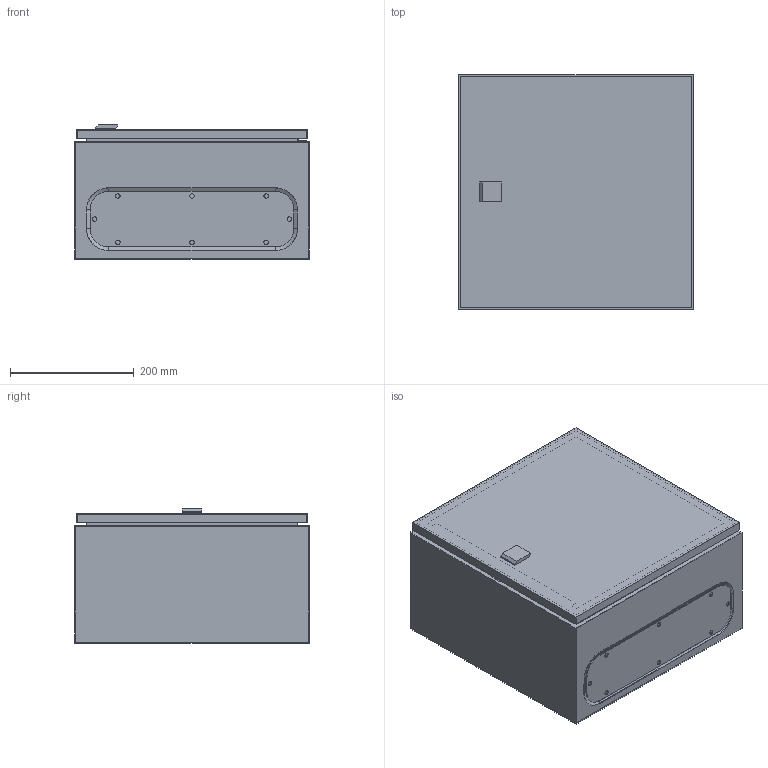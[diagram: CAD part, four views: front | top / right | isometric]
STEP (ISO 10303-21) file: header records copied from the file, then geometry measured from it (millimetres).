
FILE_DESCRIPTION(/* description */ (''),/* implementation_level */ '2;1');
FILE_NAME(/* name */ '3DCAD_Schaltschrank_LSC_fuer_CMS.stp',/* time_stamp */ '2019-10-11T09:41:37+02:00',/* author */ ('CC2'),/* organization */ ('Leuze electronic'),/* preprocessor_version */ 'ST-DEVELOPER v16',/* originating_system */ 'SIEMENS PLM Software NX 11.0',/* authorisation */ '');
FILE_SCHEMA (('AUTOMOTIVE_DESIGN { 1 0 10303 214 3 1 1 1 }'));
Length unit declared in the file: millimetre
Products named in the file (7): 026144_A_1-model-plain-1-mm-template; 026142_A_1-model-plain-1-mm-template; 026141_A_1-model-plain-1-mm-template; 026140_A_1-model-plain-1-mm-template; 026145_A_1-model-plain-1-mm-template; 026146_A_1-model-plain-1-mm-template; 19-103043_00_1-3DCAD_Schaltschrank_LSC_fuer_CMS
Assembly tree (7 placements, depth 2):
  19-103043_00_1-3DCAD_Schaltschrank_LSC_fuer_CMS
    026146_A_1-model-plain-1-mm-template
    026145_A_1-model-plain-1-mm-template  x2
    026140_A_1-model-plain-1-mm-template
    026141_A_1-model-plain-1-mm-template
    026142_A_1-model-plain-1-mm-template
    026144_A_1-model-plain-1-mm-template
Bounding box: 380 x 380 x 217 mm (x, y, z)
Volume: 1300595.5 mm3; surface area: 1596265.1 mm2
Topology: 7 solids, 7 shells, 380 faces, 1037 edges, 682 vertices
Faces by surface type: plane 283, cylinder 77, cone 20
Full cylindrical faces by diameter (mm): 7.2 x8, 8.7 x4, 10 x5, 20 x1
Entity records: 13584 total; most frequent: CARTESIAN_POINT 1911, ORIENTED_EDGE 1852, DIRECTION 1826, EDGE_CURVE 926, LINE 744, VECTOR 744, VERTEX_POINT 626, AXIS2_PLACEMENT_3D 541
